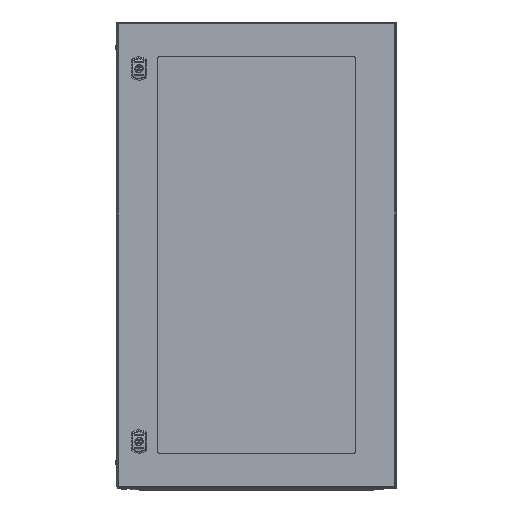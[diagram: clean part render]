
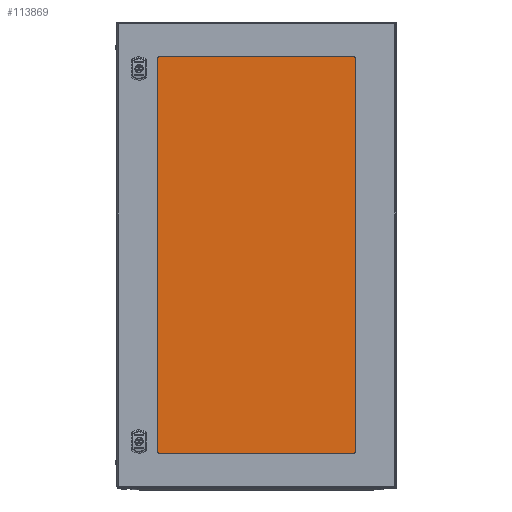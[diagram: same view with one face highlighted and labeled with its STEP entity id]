
A CAD part, top view. The second image highlights one B-rep face of the part: STEP entity #113869.
In plain terms, the highlighted planar face has unit normal (0, 0, 1) as drawn and (0, 0, -1) by its records, which use the part's own axes.
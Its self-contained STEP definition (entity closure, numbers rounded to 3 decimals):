
#2207 = CARTESIAN_POINT ( 'NONE',  ( 0., 0., 0. ) ) ;
#4551 = LINE ( 'NONE', #35908, #10906 ) ;
#5475 = EDGE_CURVE ( 'NONE', #56187, #11383, #4551, .T. ) ;
#6658 = CARTESIAN_POINT ( 'NONE',  ( 222.5, 435., 0. ) ) ;
#9698 = DIRECTION ( 'NONE',  ( 0., -1., 0. ) ) ;
#10906 = VECTOR ( 'NONE', #48114, 1000. ) ;
#11383 = VERTEX_POINT ( 'NONE', #92530 ) ;
#12524 = VECTOR ( 'NONE', #114851, 1000. ) ;
#21862 = EDGE_CURVE ( 'NONE', #11383, #82043, #49899, .T. ) ;
#24627 = VECTOR ( 'NONE', #9698, 1000. ) ;
#29444 = DIRECTION ( 'NONE',  ( 0., 1., 0. ) ) ;
#31530 = DIRECTION ( 'NONE',  ( -1., 0., 0. ) ) ;
#32521 = ORIENTED_EDGE ( 'NONE', *, *, #52357, .F. ) ;
#33566 = FACE_OUTER_BOUND ( 'NONE', #40498, .T. ) ;
#35908 = CARTESIAN_POINT ( 'NONE',  ( -222.5, -435., 0. ) ) ;
#37158 = CARTESIAN_POINT ( 'NONE',  ( -222.5, 435., 0. ) ) ;
#40498 = EDGE_LOOP ( 'NONE', ( #85294, #75148, #32521, #103657 ) ) ;
#48114 = DIRECTION ( 'NONE',  ( 1., 0., 0. ) ) ;
#49899 = LINE ( 'NONE', #81295, #129102 ) ;
#52357 = EDGE_CURVE ( 'NONE', #77029, #56187, #61529, .T. ) ;
#56187 = VERTEX_POINT ( 'NONE', #94750 ) ;
#61529 = LINE ( 'NONE', #102473, #24627 ) ;
#63232 = EDGE_CURVE ( 'NONE', #82043, #77029, #106670, .T. ) ;
#75148 = ORIENTED_EDGE ( 'NONE', *, *, #5475, .F. ) ;
#77029 = VERTEX_POINT ( 'NONE', #37158 ) ;
#81295 = CARTESIAN_POINT ( 'NONE',  ( 222.5, -435., 0. ) ) ;
#82043 = VERTEX_POINT ( 'NONE', #6658 ) ;
#85294 = ORIENTED_EDGE ( 'NONE', *, *, #21862, .F. ) ;
#92530 = CARTESIAN_POINT ( 'NONE',  ( 222.5, -435., 0. ) ) ;
#92739 = AXIS2_PLACEMENT_3D ( 'NONE', #2207, #116789, #31530 ) ;
#94750 = CARTESIAN_POINT ( 'NONE',  ( -222.5, -435., 0. ) ) ;
#95631 = PLANE ( 'NONE',  #92739 ) ;
#102473 = CARTESIAN_POINT ( 'NONE',  ( -222.5, -435., 0. ) ) ;
#103657 = ORIENTED_EDGE ( 'NONE', *, *, #63232, .F. ) ;
#106670 = LINE ( 'NONE', #115528, #12524 ) ;
#113869 = ADVANCED_FACE ( 'NONE', ( #33566 ), #95631, .T. ) ;
#114851 = DIRECTION ( 'NONE',  ( -1., 0., 0. ) ) ;
#115528 = CARTESIAN_POINT ( 'NONE',  ( -222.5, 435., 0. ) ) ;
#116789 = DIRECTION ( 'NONE',  ( 0., 0., -1. ) ) ;
#129102 = VECTOR ( 'NONE', #29444, 1000. ) ;
